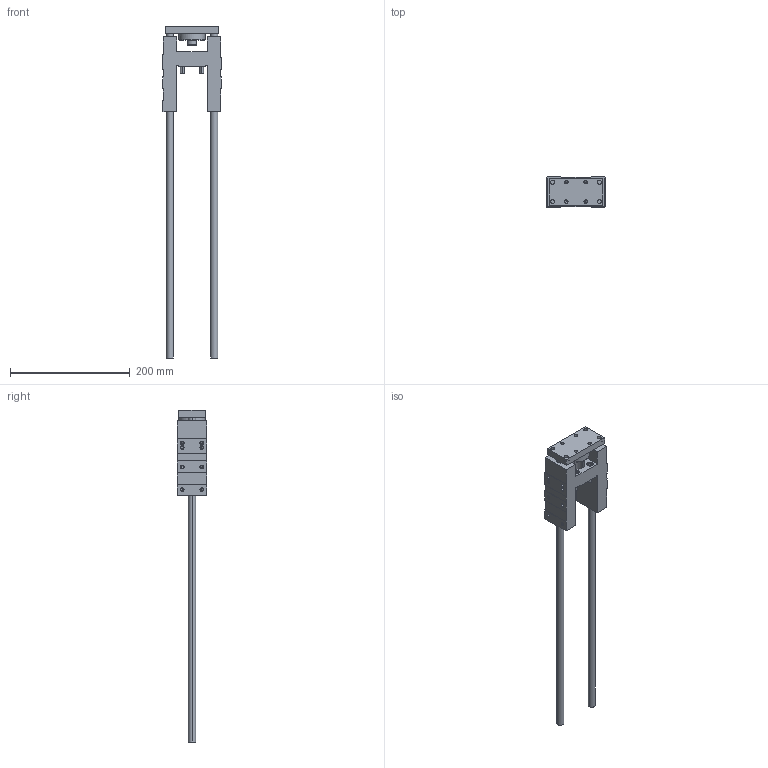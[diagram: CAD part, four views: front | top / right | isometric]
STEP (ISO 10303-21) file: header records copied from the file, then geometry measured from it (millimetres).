
FILE_DESCRIPTION (( 'STEP AP203' ), '1' );
FILE_NAME ('GB32-400.STEP', '2020-04-24T11:13:00', ( '' ), ( '' ), 'SwSTEP 2.0', 'SolidWorks 2019', '' );
FILE_SCHEMA (( 'CONFIG_CONTROL_DESIGN' ));
Length unit declared in the file: millimetre
Products named in the file (1): GB32-400
Bounding box: 97 x 50 x 555 mm (x, y, z)
Volume: 484414.2 mm3; surface area: 122515.7 mm2
Topology: 6 solids, 6 shells, 377 faces, 862 edges, 494 vertices
Faces by surface type: cone 154, plane 117, cylinder 106
Entity records: 11155 total; most frequent: CARTESIAN_POINT 2540, DIRECTION 1916, ORIENTED_EDGE 1660, EDGE_CURVE 830, AXIS2_PLACEMENT_3D 756, VERTEX_POINT 494, EDGE_LOOP 444, VECTOR 404
